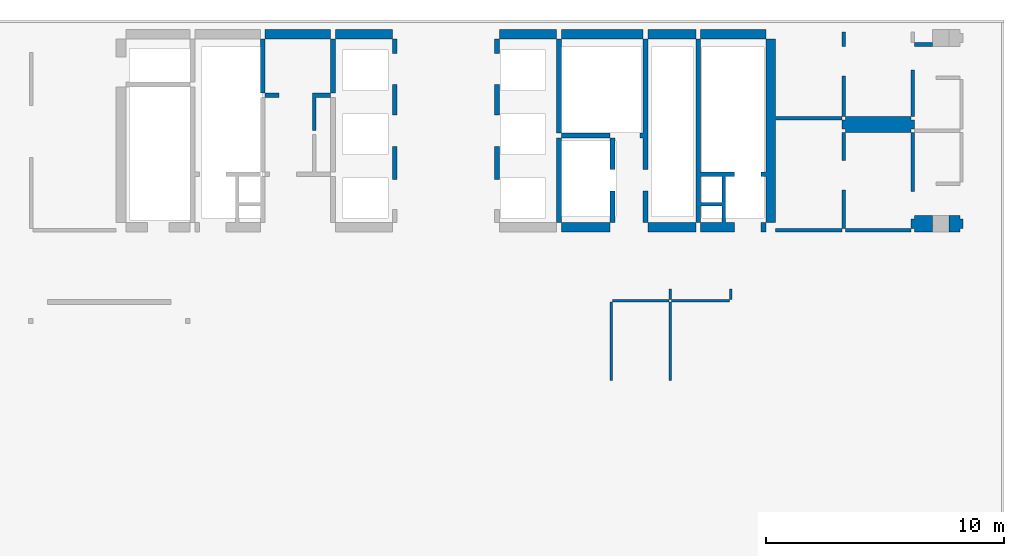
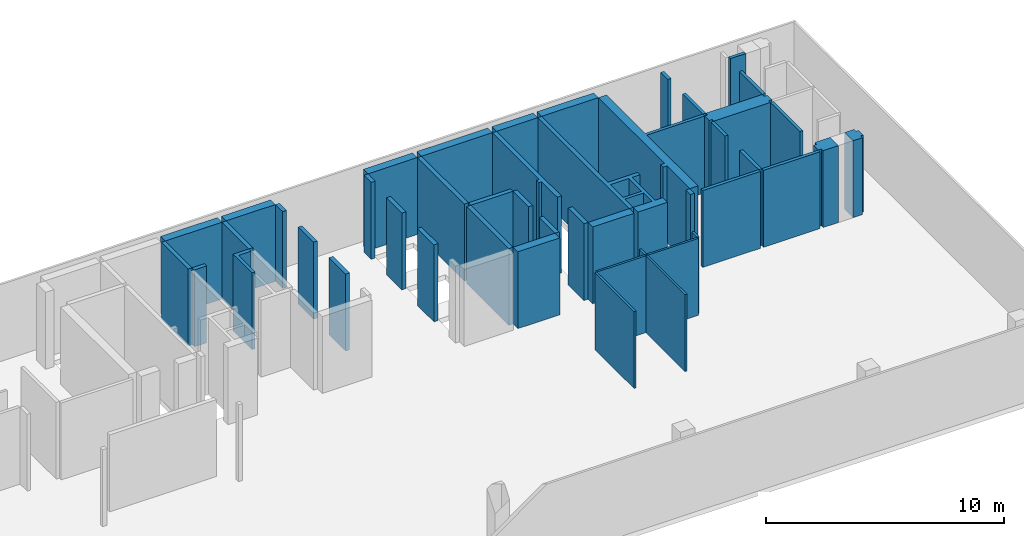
# One storey, part 2 of 4: 46 walls.
"""IFC4 building model written with IfcOpenShell, lengths in millimetres."""

from ifc_helpers import new_model, si_unit, frame, origin, place, context, project, spatial, triangles, element, save


model = new_model("IFC4")

# Units and contexts
model_context = context("Model", 3, precision=0.001, world=origin())
ifc_project = project(units=[si_unit("LENGTHUNIT", "METRE", prefix="MILLI"), si_unit("AREAUNIT", "SQUARE_METRE"), si_unit("VOLUMEUNIT", "CUBIC_METRE")], contexts=[model_context])

# Site, building, storey
site_placement = place(None, origin())
site = spatial("IfcSite", under=ifc_project, at=site_placement, Name="Site", CompositionType="ELEMENT")
building_placement = place(site_placement, origin())
building = spatial("IfcBuilding", under=site, at=building_placement, Name="INNOCEAN", CompositionType="ELEMENT")
storey_placement = place(building_placement, frame((0.0, 0.0, 34400.0)))
storey = spatial("IfcBuildingStorey", under=building, at=storey_placement, Name="F08", CompositionType="ELEMENT", Elevation=34400.0)

# Walls
wall_1_placement = place(storey_placement, origin())
element("IfcWall", 1, at=wall_1_placement, inside=storey, Name="F08_Walls_F08_019", context=model_context, shape_type="Tessellation", body=[
    triangles([(19374.1, 22765.0, 0.0), (19374.1, 25025.8, 0.0), (19374.1, 25025.8, 3950.0), (19374.1, 22765.0, 3950.0), (19183.7, 22765.0, 0.0), (19183.7, 22765.0, 3950.0), (19183.7, 25025.8, 0.0), (19183.7, 25025.8, 3950.0)], [[1, 2, 3], [1, 3, 4], [5, 1, 4], [5, 4, 6], [7, 5, 6], [7, 6, 8], [2, 7, 8], [2, 8, 3], [7, 2, 1], [7, 1, 5], [3, 8, 4], [4, 8, 6]], closed=True),
])
wall_2_placement = place(storey_placement, origin())
element("IfcWall", 2, at=wall_2_placement, inside=storey, Name="F08_Walls_F08_024", context=model_context, shape_type="Tessellation", body=[
    triangles([(33971.3, 10673.3, 0.0), (33971.3, 13975.7, 0.0), (33971.3, 13975.7, 3950.0), (33971.3, 10673.3, 3950.0), (33869.8, 10673.3, 0.0), (33869.8, 10673.3, 3950.0), (33869.8, 13975.7, 0.0), (33869.8, 13975.7, 3950.0)], [[1, 2, 3], [1, 3, 4], [5, 1, 4], [5, 4, 6], [7, 5, 6], [7, 6, 8], [2, 7, 8], [2, 8, 3], [7, 2, 1], [7, 1, 5], [3, 8, 4], [4, 8, 6]], closed=True),
])
wall_3_placement = place(storey_placement, origin())
element("IfcWall", 3, at=wall_3_placement, inside=storey, Name="F08_Walls_F08_027", context=model_context, shape_type="Tessellation", body=[
    triangles([(33869.8, 17316.1, 0.0), (33869.8, 17316.1, 3950.0), (33869.8, 16922.4, 3950.0), (33869.8, 16922.4, 0.0), (31826.2, 16922.4, 0.0), (31826.2, 16922.4, 3950.0), (31826.2, 17316.1, 3950.0), (31826.2, 17316.1, 0.0)], [[1, 2, 3], [4, 1, 3], [5, 4, 3], [5, 3, 6], [5, 6, 7], [8, 5, 7], [1, 8, 7], [1, 7, 2], [8, 1, 4], [8, 4, 5], [2, 7, 3], [3, 7, 6]], closed=True),
])
wall_4_placement = place(storey_placement, origin())
element("IfcWall", 4, at=wall_4_placement, inside=storey, Name="F08_Walls_F08_031", context=model_context, shape_type="Tessellation", body=[
    triangles([(31826.2, 20872.5, 0.0), (31826.2, 20872.5, 3950.0), (31826.2, 17316.1, 3950.0), (31826.2, 17316.1, 0.0), (31623.1, 17316.1, 3950.0), (31623.1, 17316.1, 0.0), (31623.1, 20872.5, 3950.0), (31623.1, 20872.5, 0.0)], [[1, 2, 3], [4, 1, 3], [4, 3, 5], [6, 4, 5], [6, 5, 7], [8, 6, 7], [8, 7, 2], [1, 8, 2], [8, 1, 4], [8, 4, 6], [2, 7, 3], [3, 7, 5]], closed=True),
])
wall_5_placement = place(storey_placement, origin())
element("IfcWall", 5, at=wall_5_placement, inside=storey, Name="F08_Walls_F08_034", context=model_context, shape_type="Tessellation", body=[
    triangles([(29020.0, 20515.0, 0.0), (29020.0, 19120.0, 0.0), (29020.0, 19120.0, 3950.0), (29020.0, 20515.0, 3950.0), (29020.9, 20515.0, 0.0), (29020.9, 20515.0, 3950.0), (29020.9, 20516.8, 3950.0), (29020.9, 20516.8, 0.0), (29224.0, 20516.8, 0.0), (29224.0, 20516.8, 3950.0), (29224.0, 20515.0, 3950.0), (29224.0, 20515.0, 0.0), (29225.0, 20515.0, 0.0), (29225.0, 20515.0, 3950.0), (29225.0, 19120.0, 0.0), (29225.0, 19120.0, 3950.0), (29224.0, 19120.0, 0.0), (29224.0, 19120.0, 3950.0), (29224.0, 19119.7, 0.0), (29224.0, 19119.7, 3950.0), (29020.9, 19119.7, 0.0), (29020.9, 19119.7, 3950.0), (29020.9, 19120.0, 0.0), (29020.9, 19120.0, 3950.0)], [[1, 2, 3], [1, 3, 4], [5, 1, 4], [5, 4, 6], [5, 6, 7], [8, 5, 7], [9, 8, 7], [9, 7, 10], [9, 10, 11], [12, 9, 11], [13, 12, 11], [13, 11, 14], [15, 13, 14], [15, 14, 16], [17, 15, 16], [17, 16, 18], [19, 17, 18], [19, 18, 20], [21, 19, 20], [21, 20, 22], [23, 21, 22], [23, 22, 24], [2, 23, 24], [2, 24, 3], [23, 17, 19], [23, 19, 21], [12, 13, 15], [12, 15, 17], [12, 17, 23], [5, 12, 23], [1, 23, 2], [1, 5, 23], [8, 9, 12], [8, 12, 5], [18, 24, 20], [20, 24, 22], [14, 11, 16], [16, 11, 18], [18, 11, 24], [11, 6, 24], [24, 4, 3], [6, 4, 24], [10, 7, 11], [11, 7, 6]], closed=True),
])
wall_6_placement = place(storey_placement, origin())
element("IfcWall", 6, at=wall_6_placement, inside=storey, Name="F08_Walls_F08_035", context=model_context, shape_type="Tessellation", body=[
    triangles([(24730.6, 19119.7, 0.0), (24921.0, 19119.7, 0.0), (24921.0, 19119.7, 3950.0), (24730.6, 19119.7, 3950.0), (24730.6, 19120.0, 0.0), (24730.6, 19120.0, 3950.0), (24730.0, 19120.0, 0.0), (24730.0, 19120.0, 3950.0), (24730.0, 20515.0, 0.0), (24730.0, 20515.0, 3950.0), (24730.6, 20515.0, 0.0), (24730.6, 20515.0, 3950.0), (24730.6, 20516.8, 3950.0), (24730.6, 20516.8, 0.0), (24921.0, 20516.8, 0.0), (24921.0, 20516.8, 3950.0)], [[1, 2, 3], [1, 3, 4], [5, 1, 4], [5, 4, 6], [7, 5, 6], [7, 6, 8], [9, 7, 8], [9, 8, 10], [11, 9, 10], [11, 10, 12], [11, 12, 13], [14, 11, 13], [15, 14, 13], [15, 13, 16], [2, 15, 16], [2, 16, 3], [5, 2, 1], [11, 15, 2], [11, 2, 5], [9, 5, 7], [9, 11, 5], [14, 15, 11], [3, 6, 4], [16, 12, 3], [3, 12, 6], [6, 10, 8], [12, 10, 6], [16, 13, 12]], closed=True),
])
wall_7_placement = place(storey_placement, origin())
element("IfcWall", 7, at=wall_7_placement, inside=storey, Name="F08_Walls_F08_036", context=model_context, shape_type="Tessellation", body=[
    triangles([(33869.8, 20872.5, 0.0), (33869.8, 21075.7, 0.0), (33869.8, 21075.7, 3950.0), (33869.8, 20872.5, 3950.0), (31826.2, 20872.5, 0.0), (31826.2, 20872.5, 3950.0), (31826.2, 21075.7, 0.0), (31826.2, 21075.7, 3950.0)], [[1, 2, 3], [1, 3, 4], [5, 1, 4], [5, 4, 6], [7, 5, 6], [7, 6, 8], [2, 7, 8], [2, 8, 3], [7, 2, 1], [7, 1, 5], [3, 8, 4], [4, 8, 6]], closed=True),
])
wall_8_placement = place(storey_placement, origin())
element("IfcWall", 8, at=wall_8_placement, inside=storey, Name="F08_Walls_F08_039", context=model_context, shape_type="Tessellation", body=[
    triangles([(22128.5, 22765.0, 0.0), (21366.9, 22765.0, 0.0), (21366.9, 22765.0, 3950.0), (22128.5, 22765.0, 3950.0), (22128.5, 22574.4, 3950.0), (22128.5, 22574.4, 0.0), (21519.3, 22574.4, 0.0), (21519.3, 22574.4, 3950.0), (21519.3, 21177.3, 0.0), (21519.3, 21177.3, 3950.0), (21366.9, 21177.3, 0.0), (21366.9, 21177.3, 3950.0), (21366.9, 22574.4, 0.0), (21366.9, 22574.4, 3950.0)], [[1, 2, 3], [1, 3, 4], [1, 4, 5], [6, 1, 5], [7, 6, 5], [7, 5, 8], [9, 7, 8], [9, 8, 10], [11, 9, 10], [11, 10, 12], [13, 11, 12], [13, 12, 14], [13, 14, 3], [2, 13, 3], [7, 1, 6], [13, 7, 9], [13, 9, 11], [2, 1, 7], [2, 7, 13], [4, 8, 5], [8, 14, 10], [10, 14, 12], [4, 3, 8], [8, 3, 14]], closed=True),
])
wall_9_placement = place(storey_placement, origin())
element("IfcWall", 9, at=wall_9_placement, inside=storey, Name="F08_Walls_F08_040", context=model_context, shape_type="Tessellation", body=[
    triangles([(24730.6, 23120.6, 0.0), (24730.6, 23120.0, 0.0), (24730.6, 23120.0, 3950.0), (24730.6, 23120.6, 3950.0), (24921.0, 23120.6, 0.0), (24921.0, 23120.6, 3950.0), (24921.0, 21825.1, 0.0), (24921.0, 21825.1, 3950.0), (24920.0, 21825.1, 0.0), (24920.0, 21825.1, 3950.0), (24920.0, 21825.0, 0.0), (24920.0, 21825.0, 3950.0), (24730.0, 21825.0, 0.0), (24730.0, 21825.0, 3950.0), (24730.0, 23120.0, 3950.0), (24730.0, 23120.0, 0.0)], [[1, 2, 3], [1, 3, 4], [5, 1, 4], [5, 4, 6], [7, 5, 6], [7, 6, 8], [9, 7, 8], [9, 8, 10], [11, 9, 10], [11, 10, 12], [13, 11, 12], [13, 12, 14], [13, 14, 15], [16, 13, 15], [2, 16, 15], [2, 15, 3], [13, 9, 11], [5, 7, 9], [2, 5, 9], [2, 9, 13], [1, 5, 2], [16, 2, 13], [10, 14, 12], [8, 6, 10], [6, 3, 10], [10, 3, 14], [6, 4, 3], [3, 15, 14]], closed=True),
])
wall_10_placement = place(storey_placement, origin())
element("IfcWall", 10, at=wall_10_placement, inside=storey, Name="F08_Walls_F08_041", context=model_context, shape_type="Tessellation", body=[
    triangles([(29225.0, 23120.0, 0.0), (29225.0, 23120.0, 3950.0), (29225.0, 21825.0, 3950.0), (29225.0, 21825.0, 0.0), (29020.0, 21825.0, 0.0), (29020.0, 21825.0, 3950.0), (29020.0, 23120.0, 3950.0), (29020.0, 23120.0, 0.0), (29020.9, 23120.0, 0.0), (29020.9, 23120.0, 3950.0), (29020.9, 23120.6, 0.0), (29020.9, 23120.6, 3950.0), (29224.0, 23120.6, 0.0), (29224.0, 23120.6, 3950.0), (29224.0, 23120.0, 0.0), (29224.0, 23120.0, 3950.0)], [[1, 2, 3], [4, 1, 3], [5, 4, 3], [5, 3, 6], [5, 6, 7], [8, 5, 7], [9, 8, 7], [9, 7, 10], [11, 9, 10], [11, 10, 12], [13, 11, 12], [13, 12, 14], [15, 13, 14], [15, 14, 16], [1, 15, 16], [1, 16, 2], [15, 1, 4], [15, 4, 5], [9, 15, 5], [11, 13, 15], [11, 15, 9], [8, 9, 5], [2, 16, 3], [3, 16, 6], [16, 10, 6], [14, 12, 16], [16, 12, 10], [10, 7, 6]], closed=True),
])
wall_11_placement = place(storey_placement, origin())
element("IfcWall", 11, at=wall_11_placement, inside=storey, Name="F08_Walls_F08_042", context=model_context, shape_type="Tessellation", body=[
    triangles([(19970.7, 22765.0, 0.0), (19970.7, 22765.0, 3950.0), (19970.7, 22574.4, 3950.0), (19970.7, 22574.4, 0.0), (19374.1, 22574.4, 0.0), (19374.1, 22574.4, 3950.0), (19374.1, 22765.0, 3950.0), (19374.1, 22765.0, 0.0)], [[1, 2, 3], [4, 1, 3], [5, 4, 3], [5, 3, 6], [5, 6, 7], [8, 5, 7], [1, 8, 7], [1, 7, 2], [8, 1, 4], [8, 4, 5], [2, 7, 3], [3, 7, 6]], closed=True),
])
wall_12_placement = place(storey_placement, origin())
element("IfcWall", 12, at=wall_12_placement, inside=storey, Name="F08_Walls_F08_043", context=model_context, shape_type="Tessellation", body=[
    triangles([(31826.2, 21075.7, 3950.0), (31826.2, 25025.8, 0.0), (31826.2, 25025.8, 3950.0), (31826.2, 21075.7, 0.0), (31623.1, 21075.7, 3950.0), (31623.1, 21075.7, 0.0), (31623.1, 25025.8, 3950.0), (31623.1, 25025.8, 0.0)], [[1, 2, 3], [4, 2, 1], [4, 1, 5], [6, 4, 5], [7, 6, 5], [8, 6, 7], [8, 7, 3], [2, 8, 3], [2, 4, 6], [8, 2, 6], [1, 3, 5], [3, 7, 5]], closed=True),
])
wall_13_placement = place(storey_placement, origin())
element("IfcWall", 13, at=wall_13_placement, inside=storey, Name="F08_Walls_F08_044", context=model_context, shape_type="Tessellation", body=[
    triangles([(22331.6, 22765.0, 0.0), (22331.6, 25025.8, 0.0), (22331.6, 25025.8, 3950.0), (22331.6, 22765.0, 3950.0), (22128.5, 22765.0, 0.0), (22128.5, 22765.0, 3950.0), (22128.5, 25025.8, 0.0), (22128.5, 25025.8, 3950.0)], [[1, 2, 3], [1, 3, 4], [5, 1, 4], [5, 4, 6], [7, 5, 6], [7, 6, 8], [2, 7, 8], [2, 8, 3], [7, 2, 1], [7, 1, 5], [3, 8, 4], [4, 8, 6]], closed=True),
])
wall_14_placement = place(storey_placement, origin())
element("IfcWall", 14, at=wall_14_placement, inside=storey, Name="F08_Walls_F08_045", context=model_context, shape_type="Tessellation", body=[
    triangles([(29224.0, 24416.1, 0.0), (29224.0, 25025.8, 0.0), (29224.0, 25025.8, 3950.0), (29224.0, 24416.1, 3950.0), (29020.9, 24416.1, 0.0), (29020.9, 24416.1, 3950.0), (29020.9, 25025.8, 0.0), (29020.9, 25025.8, 3950.0)], [[1, 2, 3], [1, 3, 4], [5, 1, 4], [5, 4, 6], [7, 5, 6], [7, 6, 8], [2, 7, 8], [2, 8, 3], [7, 2, 1], [7, 1, 5], [3, 8, 4], [4, 8, 6]], closed=True),
])
wall_15_placement = place(storey_placement, origin())
element("IfcWall", 15, at=wall_15_placement, inside=storey, Name="F08_Walls_F08_046", context=model_context, shape_type="Tessellation", body=[
    triangles([(24730.6, 25025.8, 0.0), (24730.6, 24416.1, 0.0), (24730.6, 24416.1, 3950.0), (24730.6, 25025.8, 3950.0), (24921.0, 25025.8, 0.0), (24921.0, 25025.8, 3950.0), (24921.0, 24416.1, 0.0), (24921.0, 24416.1, 3950.0)], [[1, 2, 3], [1, 3, 4], [5, 1, 4], [5, 4, 6], [7, 5, 6], [7, 6, 8], [2, 7, 8], [2, 8, 3], [1, 5, 7], [1, 7, 2], [6, 4, 8], [8, 4, 3]], closed=True),
])
wall_16_placement = place(storey_placement, origin())
element("IfcWall", 16, at=wall_16_placement, inside=storey, Name="F08_Walls_F08_047", context=model_context, shape_type="Tessellation", body=[
    triangles([(22331.6, 25025.8, 0.0), (24730.6, 25025.8, 0.0), (24730.6, 25025.8, 3950.0), (22331.6, 25025.8, 3950.0), (22331.6, 25419.5, 0.0), (22331.6, 25419.5, 3950.0), (24730.6, 25419.5, 0.0), (24730.6, 25419.5, 3950.0)], [[1, 2, 3], [1, 3, 4], [5, 1, 4], [5, 4, 6], [7, 5, 6], [7, 6, 8], [2, 7, 8], [2, 8, 3], [5, 2, 1], [5, 7, 2], [3, 6, 4], [8, 6, 3]], closed=True),
])
wall_17_placement = place(storey_placement, origin())
element("IfcWall", 17, at=wall_17_placement, inside=storey, Name="F08_Walls_F08_048", context=model_context, shape_type="Tessellation", body=[
    triangles([(29224.0, 25025.8, 0.0), (31623.1, 25025.8, 0.0), (31623.1, 25025.8, 3950.0), (29224.0, 25025.8, 3950.0), (29224.0, 25419.5, 0.0), (29224.0, 25419.5, 3950.0), (31623.1, 25419.5, 0.0), (31623.1, 25419.5, 3950.0)], [[1, 2, 3], [1, 3, 4], [5, 1, 4], [5, 4, 6], [7, 5, 6], [7, 6, 8], [2, 7, 8], [2, 8, 3], [5, 2, 1], [5, 7, 2], [3, 6, 4], [8, 6, 3]], closed=True),
])
wall_18_placement = place(storey_placement, origin())
element("IfcWall", 18, at=wall_18_placement, inside=storey, Name="F08_Walls_F08_049", context=model_context, shape_type="Tessellation", body=[
    triangles([(22128.5, 25025.8, 0.0), (22128.5, 25419.5, 0.0), (22128.5, 25419.5, 3950.0), (22128.5, 25025.8, 3950.0), (19374.1, 25025.8, 0.0), (19374.1, 25025.8, 3950.0), (19374.1, 25419.5, 0.0), (19374.1, 25419.5, 3950.0)], [[1, 2, 3], [1, 3, 4], [5, 1, 4], [5, 4, 6], [7, 5, 6], [7, 6, 8], [2, 7, 8], [2, 8, 3], [7, 2, 1], [7, 1, 5], [3, 8, 4], [4, 8, 6]], closed=True),
])
wall_19_placement = place(storey_placement, origin())
element("IfcWall", 19, at=wall_19_placement, inside=storey, Name="F08_Walls_F08_050", context=model_context, shape_type="Tessellation", body=[
    triangles([(35266.0, 25025.8, 0.0), (35266.0, 25419.5, 0.0), (35266.0, 25419.5, 3950.0), (35266.0, 25025.8, 3950.0), (31826.2, 25025.8, 0.0), (31826.2, 25025.8, 3950.0), (31826.2, 25419.5, 0.0), (31826.2, 25419.5, 3950.0)], [[1, 2, 3], [1, 3, 4], [5, 1, 4], [5, 4, 6], [7, 5, 6], [7, 6, 8], [2, 7, 8], [2, 8, 3], [7, 2, 1], [7, 1, 5], [3, 8, 4], [4, 8, 6]], closed=True),
])
wall_20_placement = place(storey_placement, origin())
element("IfcWall", 20, at=wall_20_placement, inside=storey, Name="F08_Walls_F08_051", context=model_context, shape_type="Tessellation", body=[
    triangles([(36344.9, 13975.7, 0.0), (36344.9, 10673.3, 0.0), (36344.9, 10673.3, 3950.0), (36344.9, 13975.7, 3950.0), (36446.5, 13975.7, 0.0), (36446.5, 13975.7, 3950.0), (36446.5, 10673.3, 0.0), (36446.5, 10673.3, 3950.0)], [[1, 2, 3], [1, 3, 4], [5, 1, 4], [5, 4, 6], [7, 5, 6], [7, 6, 8], [2, 7, 8], [2, 8, 3], [1, 5, 7], [1, 7, 2], [6, 4, 8], [8, 4, 3]], closed=True),
])
wall_21_placement = place(storey_placement, origin())
element("IfcWall", 21, at=wall_21_placement, inside=storey, Name="F08_Walls_F08_052", context=model_context, shape_type="Tessellation", body=[
    triangles([(36344.9, 13975.7, 0.0), (36344.9, 14077.3, 0.0), (36344.9, 14077.3, 3950.0), (36344.9, 13975.7, 3950.0), (33971.3, 13975.7, 0.0), (33971.3, 13975.7, 3950.0), (33971.3, 14077.3, 0.0), (33971.3, 14077.3, 3950.0)], [[1, 2, 3], [1, 3, 4], [5, 1, 4], [5, 4, 6], [7, 5, 6], [7, 6, 8], [2, 7, 8], [2, 8, 3], [7, 2, 1], [7, 1, 5], [3, 8, 4], [4, 8, 6]], closed=True),
])
wall_22_placement = place(storey_placement, origin())
element("IfcWall", 22, at=wall_22_placement, inside=storey, Name="F08_Walls_F08_053", context=model_context, shape_type="Tessellation", body=[
    triangles([(38896.3, 14077.3, 0.0), (36446.5, 14077.3, 0.0), (36446.5, 14077.3, 3950.0), (38896.3, 14077.3, 3950.0), (38896.3, 13975.7, 0.0), (38896.3, 13975.7, 3950.0), (36446.5, 13975.7, 0.0), (36446.5, 13975.7, 3950.0)], [[1, 2, 3], [1, 3, 4], [5, 1, 4], [5, 4, 6], [7, 5, 6], [7, 6, 8], [2, 7, 8], [2, 8, 3], [7, 1, 5], [2, 1, 7], [4, 8, 6], [4, 3, 8]], closed=True),
])
wall_23_placement = place(storey_placement, origin())
element("IfcWall", 23, at=wall_23_placement, inside=storey, Name="F08_Walls_F08_054", context=model_context, shape_type="Tessellation", body=[
    triangles([(38896.3, 14077.3, 0.0), (38997.8, 14077.3, 0.0), (38997.8, 14077.3, 3950.0), (38896.3, 14077.3, 3950.0), (38896.3, 14521.8, 0.0), (38896.3, 14521.8, 3950.0), (38997.8, 14521.8, 0.0), (38997.8, 14521.8, 3950.0)], [[1, 2, 3], [1, 3, 4], [5, 1, 4], [5, 4, 6], [7, 5, 6], [7, 6, 8], [2, 7, 8], [2, 8, 3], [5, 2, 1], [5, 7, 2], [3, 6, 4], [8, 6, 3]], closed=True),
])
wall_24_placement = place(storey_placement, origin())
element("IfcWall", 24, at=wall_24_placement, inside=storey, Name="F08_Walls_F08_055", context=model_context, shape_type="Tessellation", body=[
    triangles([(36446.5, 14077.3, 0.0), (36446.5, 14521.8, 0.0), (36446.5, 14521.8, 3950.0), (36446.5, 14077.3, 3950.0), (36344.9, 14077.3, 0.0), (36344.9, 14077.3, 3950.0), (36344.9, 14521.8, 0.0), (36344.9, 14521.8, 3950.0)], [[1, 2, 3], [1, 3, 4], [5, 1, 4], [5, 4, 6], [7, 5, 6], [7, 6, 8], [2, 7, 8], [2, 8, 3], [7, 2, 1], [7, 1, 5], [3, 8, 4], [4, 8, 6]], closed=True),
])
wall_25_placement = place(storey_placement, origin())
element("IfcWall", 25, at=wall_25_placement, inside=storey, Name="F08_Walls_F08_056", context=model_context, shape_type="Tessellation", body=[
    triangles([(43618.2, 16922.4, 0.0), (43618.2, 17074.8, 0.0), (43618.2, 17074.8, 3950.0), (43618.2, 16922.4, 3950.0), (40813.0, 16922.4, 0.0), (40813.0, 16922.4, 3950.0), (40813.0, 17074.8, 0.0), (40813.0, 17074.8, 3950.0)], [[1, 2, 3], [1, 3, 4], [5, 1, 4], [5, 4, 6], [7, 5, 6], [7, 6, 8], [2, 7, 8], [2, 8, 3], [5, 2, 1], [7, 2, 5], [3, 6, 4], [3, 8, 6]], closed=True),
])
wall_26_placement = place(storey_placement, origin())
element("IfcWall", 26, at=wall_26_placement, inside=storey, Name="F08_Walls_F08_057", context=model_context, shape_type="Tessellation", body=[
    triangles([(37665.0, 16922.4, 0.0), (37665.0, 16922.4, 3950.0), (37665.0, 17316.1, 3950.0), (37665.0, 17316.1, 0.0), (39099.4, 16922.4, 0.0), (39099.4, 16922.4, 3950.0), (39099.4, 17316.1, 0.0), (39099.4, 17316.1, 3950.0), (38720.0, 17316.1, 0.0), (38720.0, 17316.1, 3950.0), (38720.0, 19245.0, 0.0), (38720.0, 19245.0, 3950.0), (39100.0, 19245.0, 0.0), (39100.0, 19245.0, 3950.0), (39100.0, 19450.0, 0.0), (39100.0, 19450.0, 3950.0), (37665.0, 19450.0, 0.0), (37665.0, 19450.0, 3950.0), (37665.0, 25025.8, 0.0), (37665.0, 25025.8, 3950.0), (37474.6, 25025.8, 0.0), (37474.6, 25025.8, 3950.0), (37474.6, 19449.9, 0.0), (37474.6, 19449.9, 3950.0), (37474.6, 17316.1, 0.0), (37474.6, 17316.1, 3950.0), (37665.0, 18014.7, 0.0), (37665.0, 18014.7, 3950.0), (38565.0, 18014.7, 0.0), (38565.0, 18014.7, 3950.0), (38565.0, 17316.1, 0.0), (38565.0, 17316.1, 3950.0), (37665.0, 19245.0, 0.0), (38565.0, 19245.0, 0.0), (38565.0, 19245.0, 3950.0), (37665.0, 19245.0, 3950.0), (38565.0, 18167.1, 0.0), (38565.0, 18167.1, 3950.0), (37665.0, 18167.1, 0.0), (37665.0, 18167.1, 3950.0)], [[1, 2, 3], [4, 1, 3], [1, 5, 6], [1, 6, 2], [7, 8, 6], [5, 7, 6], [7, 9, 10], [7, 10, 8], [9, 11, 12], [9, 12, 10], [13, 14, 12], [11, 13, 12], [13, 15, 16], [13, 16, 14], [15, 17, 18], [15, 18, 16], [17, 19, 20], [17, 20, 18], [19, 21, 22], [19, 22, 20], [21, 23, 24], [21, 24, 22], [23, 25, 26], [23, 26, 24], [25, 4, 3], [25, 3, 26], [4, 27, 28], [4, 28, 3], [27, 29, 30], [27, 30, 28], [29, 31, 32], [29, 32, 30], [31, 4, 3], [31, 3, 32], [33, 34, 35], [33, 35, 36], [34, 37, 38], [34, 38, 35], [37, 39, 40], [37, 40, 38], [39, 33, 36], [39, 36, 40], [9, 7, 5], [31, 9, 5], [1, 31, 5], [29, 9, 31], [4, 31, 1], [27, 4, 25], [39, 29, 27], [39, 37, 29], [39, 27, 25], [11, 15, 13], [34, 11, 37], [34, 15, 11], [17, 34, 33], [17, 15, 34], [23, 33, 39], [23, 17, 33], [23, 39, 25], [21, 19, 17], [21, 17, 23], [11, 9, 29], [11, 29, 37], [8, 10, 6], [10, 32, 6], [32, 2, 6], [10, 30, 32], [32, 3, 2], [3, 28, 26], [30, 40, 28], [38, 40, 30], [28, 40, 26], [16, 12, 14], [12, 35, 38], [16, 35, 12], [35, 18, 36], [16, 18, 35], [36, 24, 40], [18, 24, 36], [40, 24, 26], [20, 22, 18], [18, 22, 24], [10, 12, 30], [30, 12, 38]], closed=True),
])
wall_27_placement = place(storey_placement, origin())
element("IfcWall", 27, at=wall_27_placement, inside=storey, Name="F08_Walls_F08_058", context=model_context, shape_type="Tessellation", body=[
    triangles([(37474.6, 17316.1, 0.0), (37474.6, 17316.1, 3950.0), (37474.6, 16922.4, 3950.0), (37474.6, 16922.4, 0.0), (35469.1, 16922.4, 0.0), (35469.1, 16922.4, 3950.0), (35469.1, 17316.1, 3950.0), (35469.1, 17316.1, 0.0)], [[1, 2, 3], [4, 1, 3], [5, 4, 3], [5, 3, 6], [5, 6, 7], [8, 5, 7], [1, 8, 7], [1, 7, 2], [8, 1, 4], [8, 4, 5], [2, 7, 3], [3, 7, 6]], closed=True),
])
wall_28_placement = place(storey_placement, origin())
element("IfcWall", 28, at=wall_28_placement, inside=storey, Name="F08_Walls_F08_059", context=model_context, shape_type="Tessellation", body=[
    triangles([(40419.5, 17316.1, 0.0), (40419.5, 17316.1, 3950.0), (40419.5, 16922.4, 3950.0), (40419.5, 16922.4, 0.0), (40216.4, 16922.4, 0.0), (40216.4, 16922.4, 3950.0), (40216.4, 17316.1, 3950.0), (40216.4, 17316.1, 0.0)], [[1, 2, 3], [4, 1, 3], [5, 4, 3], [5, 3, 6], [5, 6, 7], [8, 5, 7], [1, 8, 7], [1, 7, 2], [8, 1, 4], [8, 4, 5], [2, 7, 3], [3, 7, 6]], closed=True),
])
wall_29_placement = place(storey_placement, origin())
element("IfcWall", 29, at=wall_29_placement, inside=storey, Name="F08_Walls_F08_060", context=model_context, shape_type="Tessellation", body=[
    triangles([(43770.5, 17074.8, 0.0), (43770.5, 18675.1, 0.0), (43770.5, 18675.1, 3950.0), (43770.5, 17074.8, 3950.0), (43618.2, 17074.8, 0.0), (43618.2, 17074.8, 3950.0), (43618.2, 18675.1, 0.0), (43618.2, 18675.1, 3950.0)], [[1, 2, 3], [1, 3, 4], [5, 1, 4], [5, 4, 6], [7, 5, 6], [7, 6, 8], [2, 7, 8], [2, 8, 3], [2, 1, 5], [7, 2, 5], [4, 3, 6], [3, 8, 6]], closed=True),
])
wall_30_placement = place(storey_placement, origin())
element("IfcWall", 30, at=wall_30_placement, inside=storey, Name="F08_Walls_F08_061", context=model_context, shape_type="Tessellation", body=[
    triangles([(34072.9, 17316.1, 0.0), (34072.9, 18649.7, 0.0), (34072.9, 18649.7, 3950.0), (34072.9, 17316.1, 3950.0), (33869.8, 17316.1, 0.0), (33869.8, 17316.1, 3950.0), (33869.8, 18649.7, 0.0), (33869.8, 18649.7, 3950.0)], [[1, 2, 3], [1, 3, 4], [5, 1, 4], [5, 4, 6], [7, 5, 6], [7, 6, 8], [2, 7, 8], [2, 8, 3], [7, 2, 1], [7, 1, 5], [3, 8, 4], [4, 8, 6]], closed=True),
])
wall_31_placement = place(storey_placement, origin())
element("IfcWall", 31, at=wall_31_placement, inside=storey, Name="F08_Walls_F08_062", context=model_context, shape_type="Tessellation", body=[
    triangles([(35469.1, 17316.1, 0.0), (35469.1, 18649.7, 0.0), (35469.1, 18649.7, 3950.0), (35469.1, 17316.1, 3950.0), (35266.0, 17316.1, 0.0), (35266.0, 17316.1, 3950.0), (35266.0, 18649.7, 0.0), (35266.0, 18649.7, 3950.0)], [[1, 2, 3], [1, 3, 4], [5, 1, 4], [5, 4, 6], [7, 5, 6], [7, 6, 8], [2, 7, 8], [2, 8, 3], [7, 2, 1], [7, 1, 5], [3, 8, 4], [4, 8, 6]], closed=True),
])
wall_32_placement = place(storey_placement, origin())
element("IfcWall", 32, at=wall_32_placement, inside=storey, Name="F08_Walls_F08_063", context=model_context, shape_type="Tessellation", body=[
    triangles([(40215.0, 19450.0, 0.0), (40215.0, 19245.0, 0.0), (40215.0, 19245.0, 3950.0), (40215.0, 19450.0, 3950.0), (40419.5, 19450.0, 3950.0), (40419.5, 19450.0, 0.0), (40419.5, 25025.8, 0.0), (40419.5, 25025.8, 3950.0), (40813.0, 25025.8, 0.0), (40813.0, 25025.8, 3950.0), (40813.0, 21774.3, 0.0), (40813.0, 21774.3, 3950.0), (43618.2, 21774.3, 0.0), (43618.2, 21774.3, 3950.0), (43618.2, 21621.8, 0.0), (43618.2, 21621.8, 3950.0), (40813.0, 21621.8, 0.0), (40813.0, 21621.8, 3950.0), (40813.0, 19449.9, 0.0), (40813.0, 19449.9, 3950.0), (40813.0, 17316.1, 0.0), (40813.0, 17316.1, 3950.0), (40419.5, 17316.1, 0.0), (40419.5, 17316.1, 3950.0), (40419.5, 19245.0, 0.0), (40419.5, 19245.0, 3950.0)], [[1, 2, 3], [1, 3, 4], [1, 4, 5], [6, 1, 5], [7, 6, 5], [7, 5, 8], [9, 7, 8], [9, 8, 10], [11, 9, 10], [11, 10, 12], [13, 11, 12], [13, 12, 14], [15, 13, 14], [15, 14, 16], [17, 15, 16], [17, 16, 18], [19, 17, 18], [19, 18, 20], [21, 19, 20], [21, 20, 22], [23, 21, 22], [23, 22, 24], [25, 23, 24], [25, 24, 26], [25, 26, 3], [2, 25, 3], [25, 19, 21], [25, 21, 23], [6, 25, 2], [6, 19, 25], [1, 6, 2], [17, 19, 6], [11, 13, 15], [11, 15, 17], [7, 9, 11], [6, 7, 11], [6, 11, 17], [20, 26, 22], [22, 26, 24], [26, 5, 3], [20, 5, 26], [5, 4, 3], [20, 18, 5], [14, 12, 16], [16, 12, 18], [10, 8, 12], [8, 5, 12], [12, 5, 18]], closed=True),
])
wall_33_placement = place(storey_placement, origin())
element("IfcWall", 33, at=wall_33_placement, inside=storey, Name="F08_Walls_F08_064", context=model_context, shape_type="Tessellation", body=[
    triangles([(35266.0, 21075.7, 0.0), (35126.4, 21075.7, 0.0), (35126.4, 21075.7, 3950.0), (35266.0, 21075.7, 3950.0), (35266.0, 25025.8, 3950.0), (35266.0, 25025.8, 0.0), (35469.1, 25025.8, 0.0), (35469.1, 25025.8, 3950.0), (35469.1, 21075.7, 3950.0), (35469.1, 21075.7, 0.0), (35469.1, 20872.5, 0.0), (35469.1, 20872.5, 3950.0), (35469.1, 19551.5, 0.0), (35469.1, 19551.5, 3950.0), (35266.0, 19551.5, 0.0), (35266.0, 19551.5, 3950.0), (35266.0, 20872.5, 0.0), (35266.0, 20872.5, 3950.0), (35126.4, 20872.5, 0.0), (35126.4, 20872.5, 3950.0)], [[1, 2, 3], [1, 3, 4], [5, 1, 4], [6, 1, 5], [7, 6, 5], [7, 5, 8], [9, 7, 8], [10, 7, 9], [11, 10, 9], [11, 9, 12], [13, 11, 12], [13, 12, 14], [15, 13, 14], [15, 14, 16], [17, 15, 16], [17, 16, 18], [19, 17, 18], [19, 18, 20], [2, 19, 20], [2, 20, 3], [17, 11, 13], [17, 13, 15], [10, 11, 17], [1, 10, 17], [2, 17, 19], [2, 1, 17], [6, 7, 10], [6, 10, 1], [12, 18, 14], [14, 18, 16], [12, 9, 18], [9, 4, 18], [18, 3, 20], [4, 3, 18], [8, 5, 9], [9, 5, 4]], closed=True),
])
wall_34_placement = place(storey_placement, origin())
element("IfcWall", 34, at=wall_34_placement, inside=storey, Name="F08_Walls_F08_065", context=model_context, shape_type="Tessellation", body=[
    triangles([(34072.9, 19551.5, 0.0), (34072.9, 20872.5, 0.0), (34072.9, 20872.5, 3950.0), (34072.9, 19551.5, 3950.0), (33869.8, 19551.5, 0.0), (33869.8, 19551.5, 3950.0), (33869.8, 20872.5, 0.0), (33869.8, 20872.5, 3950.0)], [[1, 2, 3], [1, 3, 4], [5, 1, 4], [5, 4, 6], [7, 5, 6], [7, 6, 8], [2, 7, 8], [2, 8, 3], [7, 2, 1], [7, 1, 5], [3, 8, 4], [4, 8, 6]], closed=True),
])
wall_35_placement = place(storey_placement, origin())
element("IfcWall", 35, at=wall_35_placement, inside=storey, Name="F08_Walls_F08_066", context=model_context, shape_type="Tessellation", body=[
    triangles([(43620.0, 24721.0, 0.0), (43620.0, 24720.0, 0.0), (43620.0, 24720.0, 3950.0), (43620.0, 24721.0, 3950.0), (43618.2, 24721.0, 3950.0), (43618.2, 24721.0, 0.0), (43618.2, 25317.9, 0.0), (43618.2, 25317.9, 3950.0), (43620.0, 25317.9, 3950.0), (43620.0, 25317.9, 0.0), (43620.0, 25320.0, 0.0), (43620.0, 25320.0, 3950.0), (43770.0, 25320.0, 3950.0), (43770.0, 25320.0, 0.0), (43770.0, 25317.9, 0.0), (43770.0, 25317.9, 3950.0), (43770.5, 25317.9, 0.0), (43770.5, 25317.9, 3950.0), (43770.5, 24721.0, 0.0), (43770.5, 24721.0, 3950.0), (43770.0, 24721.0, 0.0), (43770.0, 24721.0, 3950.0), (43770.0, 24720.0, 0.0), (43770.0, 24720.0, 3950.0)], [[1, 2, 3], [1, 3, 4], [1, 4, 5], [6, 1, 5], [7, 6, 5], [7, 5, 8], [7, 8, 9], [10, 7, 9], [11, 10, 9], [11, 9, 12], [11, 12, 13], [14, 11, 13], [15, 14, 13], [15, 13, 16], [17, 15, 16], [17, 16, 18], [19, 17, 18], [19, 18, 20], [21, 19, 20], [21, 20, 22], [23, 21, 22], [23, 22, 24], [23, 24, 3], [2, 23, 3], [1, 21, 23], [1, 23, 2], [17, 19, 21], [15, 21, 1], [15, 17, 21], [10, 15, 1], [7, 1, 6], [7, 10, 1], [11, 14, 15], [11, 15, 10], [22, 4, 24], [24, 4, 3], [20, 18, 22], [22, 16, 4], [18, 16, 22], [16, 9, 4], [4, 8, 5], [9, 8, 4], [13, 12, 16], [16, 12, 9]], closed=True),
])
wall_36_placement = place(storey_placement, origin())
element("IfcWall", 36, at=wall_36_placement, inside=storey, Name="F08_Walls_F08_067", context=model_context, shape_type="Tessellation", body=[
    triangles([(40419.5, 25025.8, 0.0), (40419.5, 25419.5, 0.0), (40419.5, 25419.5, 3950.0), (40419.5, 25025.8, 3950.0), (37665.0, 25025.8, 0.0), (37665.0, 25025.8, 3950.0), (37665.0, 25419.5, 0.0), (37665.0, 25419.5, 3950.0)], [[1, 2, 3], [1, 3, 4], [5, 1, 4], [5, 4, 6], [7, 5, 6], [7, 6, 8], [2, 7, 8], [2, 8, 3], [7, 2, 1], [7, 1, 5], [3, 8, 4], [4, 8, 6]], closed=True),
])
wall_37_placement = place(storey_placement, origin())
element("IfcWall", 37, at=wall_37_placement, inside=storey, Name="F08_Walls_F08_068", context=model_context, shape_type="Tessellation", body=[
    triangles([(37474.6, 25025.8, 0.0), (37474.6, 25419.5, 0.0), (37474.6, 25419.5, 3950.0), (37474.6, 25025.8, 3950.0), (35469.1, 25025.8, 0.0), (35469.1, 25025.8, 3950.0), (35469.1, 25419.5, 0.0), (35469.1, 25419.5, 3950.0)], [[1, 2, 3], [1, 3, 4], [5, 1, 4], [5, 4, 6], [7, 5, 6], [7, 6, 8], [2, 7, 8], [2, 8, 3], [7, 2, 1], [7, 1, 5], [3, 8, 4], [4, 8, 6]], closed=True),
])
wall_38_placement = place(storey_placement, origin())
element("IfcWall", 38, at=wall_38_placement, inside=storey, Name="F08_Walls_F08_069", context=model_context, shape_type="Tessellation", body=[
    triangles([(46512.2, 16922.4, 0.0), (46512.2, 17074.8, 0.0), (46512.2, 17074.8, 3950.0), (46512.2, 16922.4, 3950.0), (43770.5, 16922.4, 0.0), (43770.5, 16922.4, 3950.0), (43770.5, 17074.8, 0.0), (43770.5, 17074.8, 3950.0)], [[1, 2, 3], [1, 3, 4], [5, 1, 4], [5, 4, 6], [7, 5, 6], [7, 6, 8], [2, 7, 8], [2, 8, 3], [7, 2, 1], [7, 1, 5], [3, 8, 4], [4, 8, 6]], closed=True),
])
wall_39_placement = place(storey_placement, origin())
element("IfcWall", 39, at=wall_39_placement, inside=storey, Name="F08_Walls_F08_070", context=model_context, shape_type="Tessellation", body=[
    triangles([(47413.4, 17468.5, 0.0), (47413.4, 17620.9, 0.0), (47413.4, 17620.9, 3950.0), (47413.4, 17468.5, 3950.0), (47413.4, 17074.8, 0.0), (47413.4, 17074.8, 3950.0), (47413.4, 16922.4, 0.0), (47413.4, 16922.4, 3950.0), (46664.5, 16922.4, 0.0), (46664.5, 16922.4, 3950.0), (46664.5, 17074.8, 0.0), (46664.5, 17074.8, 3950.0), (46512.2, 17074.8, 0.0), (46512.2, 17074.8, 3950.0), (46512.2, 17468.5, 0.0), (46512.2, 17468.5, 3950.0), (46664.5, 17468.5, 0.0), (46664.5, 17468.5, 3950.0), (46664.5, 17620.9, 0.0), (46664.5, 17620.9, 3950.0)], [[1, 2, 3], [1, 3, 4], [5, 1, 4], [5, 4, 6], [7, 5, 6], [7, 6, 8], [9, 7, 8], [9, 8, 10], [11, 9, 10], [11, 10, 12], [13, 11, 12], [13, 12, 14], [15, 13, 14], [15, 14, 16], [17, 15, 16], [17, 16, 18], [19, 17, 18], [19, 18, 20], [2, 19, 20], [2, 20, 3], [9, 5, 7], [11, 5, 9], [17, 1, 5], [17, 11, 13], [17, 5, 11], [15, 17, 13], [19, 2, 1], [19, 1, 17], [6, 10, 8], [6, 12, 10], [4, 18, 6], [12, 18, 14], [6, 18, 12], [18, 16, 14], [3, 20, 4], [4, 20, 18]], closed=True),
])
wall_40_placement = place(storey_placement, origin())
element("IfcWall", 40, at=wall_40_placement, inside=storey, Name="F08_Walls_F08_071", context=model_context, shape_type="Tessellation", body=[
    triangles([(48111.6, 17620.9, 0.0), (48111.6, 17468.5, 0.0), (48111.6, 17468.5, 3950.0), (48111.6, 17620.9, 3950.0), (48568.5, 17620.9, 0.0), (48568.5, 17620.9, 3950.0), (48568.5, 17468.5, 0.0), (48568.5, 17468.5, 3950.0), (48708.1, 17468.5, 0.0), (48708.1, 17468.5, 3950.0), (48708.1, 17074.8, 0.0), (48708.1, 17074.8, 3950.0), (48568.5, 17074.8, 0.0), (48568.5, 17074.8, 3950.0), (48568.5, 16922.4, 0.0), (48568.5, 16922.4, 3950.0), (48111.6, 16922.4, 0.0), (48111.6, 16922.4, 3950.0), (48111.6, 17074.8, 0.0), (48111.6, 17074.8, 3950.0)], [[1, 2, 3], [1, 3, 4], [5, 1, 4], [5, 4, 6], [7, 5, 6], [7, 6, 8], [9, 7, 8], [9, 8, 10], [11, 9, 10], [11, 10, 12], [13, 11, 12], [13, 12, 14], [15, 13, 14], [15, 14, 16], [17, 15, 16], [17, 16, 18], [19, 17, 18], [19, 18, 20], [2, 19, 20], [2, 20, 3], [7, 9, 11], [7, 11, 13], [19, 13, 15], [19, 15, 17], [19, 7, 13], [2, 7, 19], [1, 5, 7], [1, 7, 2], [10, 8, 12], [12, 8, 14], [14, 20, 16], [16, 20, 18], [8, 20, 14], [8, 3, 20], [6, 4, 8], [8, 4, 3]], closed=True),
])
wall_41_placement = place(storey_placement, origin())
element("IfcWall", 41, at=wall_41_placement, inside=storey, Name="F08_Walls_F08_073", context=model_context, shape_type="Tessellation", body=[
    triangles([(46664.5, 18624.3, 0.0), (46664.5, 21101.1, 0.0), (46664.5, 21101.1, 3950.0), (46664.5, 18624.3, 3950.0), (46512.2, 18624.3, 0.0), (46512.2, 18624.3, 3950.0), (46512.2, 21101.1, 0.0), (46512.2, 21101.1, 3950.0)], [[1, 2, 3], [1, 3, 4], [5, 1, 4], [5, 4, 6], [7, 5, 6], [7, 6, 8], [2, 7, 8], [2, 8, 3], [7, 2, 1], [7, 1, 5], [3, 8, 4], [4, 8, 6]], closed=True),
])
wall_42_placement = place(storey_placement, origin())
element("IfcWall", 42, at=wall_42_placement, inside=storey, Name="F08_Walls_F08_075", context=model_context, shape_type="Tessellation", body=[
    triangles([(43770.5, 19919.9, 0.0), (43770.5, 21101.1, 0.0), (43770.5, 21101.1, 3950.0), (43770.5, 19919.9, 3950.0), (43618.2, 19919.9, 0.0), (43618.2, 19919.9, 3950.0), (43618.2, 21101.1, 0.0), (43618.2, 21101.1, 3950.0)], [[1, 2, 3], [1, 3, 4], [5, 1, 4], [5, 4, 6], [7, 5, 6], [7, 6, 8], [2, 7, 8], [2, 8, 3], [7, 2, 1], [7, 1, 5], [3, 8, 4], [4, 8, 6]], closed=True),
])
wall_43_placement = place(storey_placement, origin())
element("IfcWall", 43, at=wall_43_placement, inside=storey, Name="F08_Walls_F08_076", context=model_context, shape_type="Tessellation", body=[
    triangles([(43770.0, 21240.0, 0.0), (43770.5, 21240.0, 0.0), (43770.5, 21240.0, 3950.0), (43770.0, 21240.0, 3950.0), (43770.0, 21240.8, 0.0), (43770.0, 21240.8, 3950.0), (43618.2, 21240.8, 3950.0), (43618.2, 21240.8, 0.0), (43618.2, 21621.8, 3950.0), (43618.2, 21621.8, 0.0), (43770.5, 21621.8, 0.0), (43770.5, 21621.8, 3950.0), (43770.5, 21774.3, 0.0), (43770.5, 21774.3, 3950.0), (46512.2, 21774.3, 0.0), (46512.2, 21774.3, 3950.0), (46512.2, 21621.8, 0.0), (46512.2, 21621.8, 3950.0), (46664.5, 21621.8, 0.0), (46664.5, 21621.8, 3950.0), (46664.5, 21240.8, 3950.0), (46664.5, 21240.8, 0.0), (46512.2, 21240.8, 0.0), (46512.2, 21240.8, 3950.0), (46512.2, 21101.1, 3950.0), (46512.2, 21101.1, 0.0), (43770.5, 21101.1, 0.0), (43770.5, 21101.1, 3950.0)], [[1, 2, 3], [1, 3, 4], [5, 1, 4], [5, 4, 6], [5, 6, 7], [8, 5, 7], [8, 7, 9], [10, 8, 9], [11, 10, 9], [11, 9, 12], [13, 11, 12], [13, 12, 14], [15, 13, 14], [15, 14, 16], [17, 15, 16], [17, 16, 18], [19, 17, 18], [19, 18, 20], [19, 20, 21], [22, 19, 21], [23, 22, 21], [23, 21, 24], [23, 24, 25], [26, 23, 25], [27, 26, 25], [27, 25, 28], [2, 27, 28], [2, 28, 3], [19, 22, 23], [17, 19, 23], [2, 23, 26], [2, 26, 27], [5, 2, 1], [11, 17, 23], [11, 23, 2], [11, 2, 5], [10, 5, 8], [10, 11, 5], [13, 15, 17], [13, 17, 11], [21, 20, 24], [20, 18, 24], [24, 3, 25], [25, 3, 28], [3, 6, 4], [18, 12, 24], [24, 12, 3], [3, 12, 6], [6, 9, 7], [12, 9, 6], [16, 14, 18], [18, 14, 12]], closed=True),
])
wall_44_placement = place(storey_placement, origin())
element("IfcWall", 44, at=wall_44_placement, inside=storey, Name="F08_Walls_F08_079", context=model_context, shape_type="Tessellation", body=[
    triangles([(43770.5, 21774.3, 0.0), (43770.5, 23476.2, 0.0), (43770.5, 23476.2, 3950.0), (43770.5, 21774.3, 3950.0), (43618.2, 21774.3, 0.0), (43618.2, 21774.3, 3950.0), (43618.2, 23476.2, 0.0), (43618.2, 23476.2, 3950.0)], [[1, 2, 3], [1, 3, 4], [5, 1, 4], [5, 4, 6], [7, 5, 6], [7, 6, 8], [2, 7, 8], [2, 8, 3], [7, 2, 1], [7, 1, 5], [3, 8, 4], [4, 8, 6]], closed=True),
])
wall_45_placement = place(storey_placement, origin())
element("IfcWall", 45, at=wall_45_placement, inside=storey, Name="F08_Walls_F08_080", context=model_context, shape_type="Tessellation", body=[
    triangles([(46664.5, 21774.3, 0.0), (46664.5, 23717.6, 0.0), (46664.5, 23717.6, 3950.0), (46664.5, 21774.3, 3950.0), (46512.2, 21774.3, 0.0), (46512.2, 21774.3, 3950.0), (46512.2, 23717.6, 0.0), (46512.2, 23717.6, 3950.0)], [[1, 2, 3], [1, 3, 4], [5, 1, 4], [5, 4, 6], [7, 5, 6], [7, 6, 8], [2, 7, 8], [2, 8, 3], [7, 2, 1], [7, 1, 5], [3, 8, 4], [4, 8, 6]], closed=True),
])
wall_46_placement = place(storey_placement, origin())
element("IfcWall", 46, at=wall_46_placement, inside=storey, Name="F08_Walls_F08_082", context=model_context, shape_type="Tessellation", body=[
    triangles([(47413.4, 24721.0, 0.0), (47413.4, 24873.4, 0.0), (47413.4, 24873.4, 3950.0), (47413.4, 24721.0, 3950.0), (46664.5, 24721.0, 0.0), (46664.5, 24721.0, 3950.0), (46664.5, 24873.4, 0.0), (46664.5, 24873.4, 3950.0)], [[1, 2, 3], [1, 3, 4], [5, 1, 4], [5, 4, 6], [7, 5, 6], [7, 6, 8], [2, 7, 8], [2, 8, 3], [7, 2, 1], [7, 1, 5], [3, 8, 4], [4, 8, 6]], closed=True),
])

save(model, "model.ifc")
